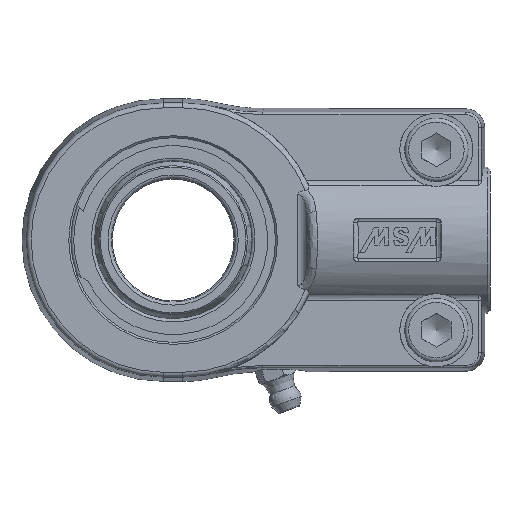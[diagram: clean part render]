
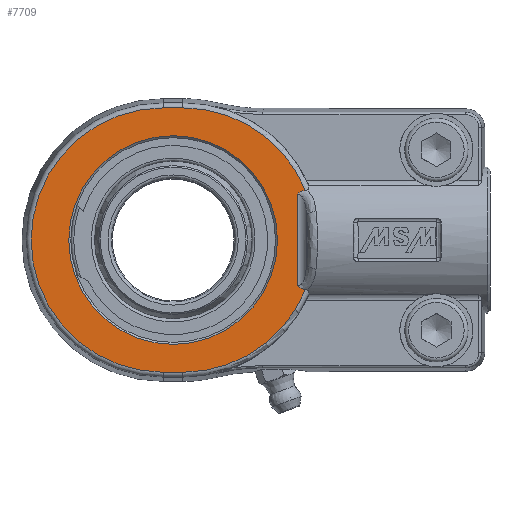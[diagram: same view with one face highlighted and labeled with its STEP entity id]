
A CAD part, left-side view. The second image highlights one B-rep face of the part: STEP entity #7709.
In plain terms, the highlighted planar face has unit normal (-1, 0, 0) as drawn and (0, 0, 1) by its records, which use the part's own axes.
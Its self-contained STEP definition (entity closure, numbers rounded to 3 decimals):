
#4105=CARTESIAN_POINT('',(0.0,21.4,11.));
#4106=VERTEX_POINT('',#4105);
#4107=CARTESIAN_POINT('',(0.0,0.0,11.0));
#4108=DIRECTION('',(0.0,0.0,-1.0));
#4109=DIRECTION('',(0.0,1.0,0.0));
#4110=AXIS2_PLACEMENT_3D('',#4107,#4108,#4109);
#4111=CIRCLE('',#4110,21.4);
#4112=EDGE_CURVE('',#4106,#4106,#4111,.T.);
#7496=CARTESIAN_POINT('',(-10.18,-27.138,11.0));
#7497=VERTEX_POINT('',#7496);
#7507=CARTESIAN_POINT('',(-27.121,-2.,11.0));
#7508=VERTEX_POINT('',#7507);
#7509=CARTESIAN_POINT('',(0.0,-2.,11.0));
#7510=DIRECTION('',(0.0,0.0,-1.));
#7511=DIRECTION('',(-0.826,-0.564,0.0));
#7512=AXIS2_PLACEMENT_3D('',#7509,#7510,#7511);
#7513=CIRCLE('',#7512,27.121);
#7514=EDGE_CURVE('',#7497,#7508,#7513,.T.);
#7541=CARTESIAN_POINT('',(-27.121,2.,11.0));
#7542=VERTEX_POINT('',#7541);
#7559=CARTESIAN_POINT('',(-27.121,-2.,11.0));
#7560=DIRECTION('',(0.0,1.0,0.0));
#7561=VECTOR('',#7560,4.);
#7562=LINE('',#7559,#7561);
#7563=EDGE_CURVE('',#7508,#7542,#7562,.T.);
#7573=CARTESIAN_POINT('',(27.121,2.,11.0));
#7574=VERTEX_POINT('',#7573);
#7590=CARTESIAN_POINT('',(0.,2.,11.0));
#7591=DIRECTION('',(0.0,0.0,-1.0));
#7592=DIRECTION('',(0.0,1.0,0.0));
#7593=AXIS2_PLACEMENT_3D('',#7590,#7591,#7592);
#7594=CIRCLE('',#7593,27.121);
#7595=EDGE_CURVE('',#7542,#7574,#7594,.T.);
#7605=CARTESIAN_POINT('',(27.121,-2.0,11.0));
#7606=VERTEX_POINT('',#7605);
#7616=CARTESIAN_POINT('',(27.121,2.,11.0));
#7617=DIRECTION('',(0.0,-1.0,0.0));
#7618=VECTOR('',#7617,4.);
#7619=LINE('',#7616,#7618);
#7620=EDGE_CURVE('',#7574,#7606,#7619,.T.);
#7639=CARTESIAN_POINT('',(10.18,-27.138,11.0));
#7640=VERTEX_POINT('',#7639);
#7641=CARTESIAN_POINT('',(0.0,-2.,11.0));
#7642=DIRECTION('',(0.0,0.0,-1.0));
#7643=DIRECTION('',(0.826,-0.564,0.0));
#7644=AXIS2_PLACEMENT_3D('',#7641,#7642,#7643);
#7645=CIRCLE('',#7644,27.121);
#7646=EDGE_CURVE('',#7606,#7640,#7645,.T.);
#7660=CARTESIAN_POINT('',(0.,0.0,11.0));
#7661=DIRECTION('',(0.0,0.0,1.0));
#7662=DIRECTION('',(1.0,0.0,0.0));
#7663=AXIS2_PLACEMENT_3D('',#7660,#7661,#7662);
#7664=PLANE('',#7663);
#7665=ORIENTED_EDGE('',*,*,#7646,.F.);
#7666=ORIENTED_EDGE('',*,*,#7620,.F.);
#7667=ORIENTED_EDGE('',*,*,#7595,.F.);
#7668=ORIENTED_EDGE('',*,*,#7563,.F.);
#7669=ORIENTED_EDGE('',*,*,#7514,.F.);
#7670=CARTESIAN_POINT('',(-9.381,-25.465,11.0));
#7671=VERTEX_POINT('',#7670);
#7672=CARTESIAN_POINT('',(-10.18,-27.138,11.0));
#7673=CARTESIAN_POINT('',(-10.146,-26.821,11.0));
#7674=CARTESIAN_POINT('',(-10.059,-26.511,11.));
#7675=CARTESIAN_POINT('',(-9.786,-25.943,11.));
#7676=CARTESIAN_POINT('',(-9.607,-25.693,11.));
#7677=CARTESIAN_POINT('',(-9.385,-25.47,11.));
#7678=CARTESIAN_POINT('',(-9.383,-25.467,11.0));
#7679=CARTESIAN_POINT('',(-9.381,-25.465,11.0));
#7680=B_SPLINE_CURVE_WITH_KNOTS('',3,(#7672,#7673,#7674,#7675,#7676,#7677,#7678,#7679),.UNSPECIFIED.,.F.,.U.,(4,2,2,4),(0.032,0.128,0.221,0.222),.UNSPECIFIED.);
#7681=EDGE_CURVE('',#7671,#7497,#7680,.F.);
#7682=ORIENTED_EDGE('',*,*,#7681,.F.);
#7683=CARTESIAN_POINT('',(9.381,-25.465,11.0));
#7684=VERTEX_POINT('',#7683);
#7685=CARTESIAN_POINT('',(9.381,-25.465,11.0));
#7686=DIRECTION('',(-1.0,0.0,0.0));
#7687=VECTOR('',#7686,18.762);
#7688=LINE('',#7685,#7687);
#7689=EDGE_CURVE('',#7684,#7671,#7688,.T.);
#7690=ORIENTED_EDGE('',*,*,#7689,.F.);
#7691=CARTESIAN_POINT('',(9.381,-25.465,11.0));
#7692=CARTESIAN_POINT('',(9.383,-25.467,11.0));
#7693=CARTESIAN_POINT('',(9.385,-25.47,11.));
#7694=CARTESIAN_POINT('',(9.522,-25.607,11.));
#7695=CARTESIAN_POINT('',(9.641,-25.754,11.));
#7696=CARTESIAN_POINT('',(9.848,-26.07,11.));
#7697=CARTESIAN_POINT('',(9.934,-26.236,11.));
#7698=CARTESIAN_POINT('',(10.094,-26.644,11.));
#7699=CARTESIAN_POINT('',(10.153,-26.889,11.0));
#7700=CARTESIAN_POINT('',(10.18,-27.138,11.0));
#7701=B_SPLINE_CURVE_WITH_KNOTS('',3,(#7691,#7692,#7693,#7694,#7695,#7696,#7697,#7698,#7699,#7700),.UNSPECIFIED.,.F.,.U.,(4,2,2,2,4),(-0.001,0.0,0.057,0.113,0.189),.UNSPECIFIED.);
#7702=EDGE_CURVE('',#7640,#7684,#7701,.F.);
#7703=ORIENTED_EDGE('',*,*,#7702,.F.);
#7704=EDGE_LOOP('',(#7665,#7666,#7667,#7668,#7669,#7682,#7690,#7703));
#7705=FACE_OUTER_BOUND('',#7704,.T.);
#7706=ORIENTED_EDGE('',*,*,#4112,.T.);
#7707=EDGE_LOOP('',(#7706));
#7708=FACE_BOUND('',#7707,.T.);
#7709=ADVANCED_FACE('',(#7705,#7708),#7664,.T.);
